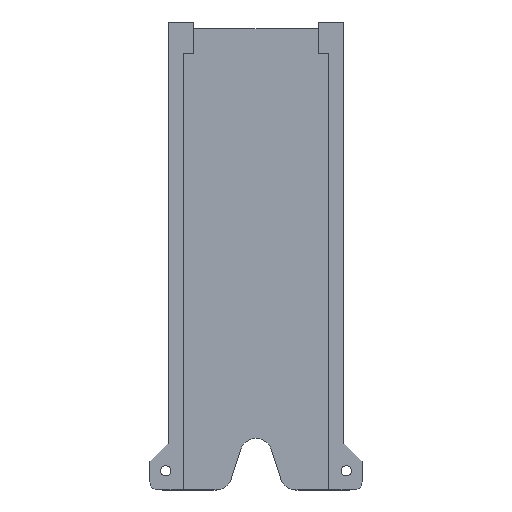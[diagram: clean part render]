
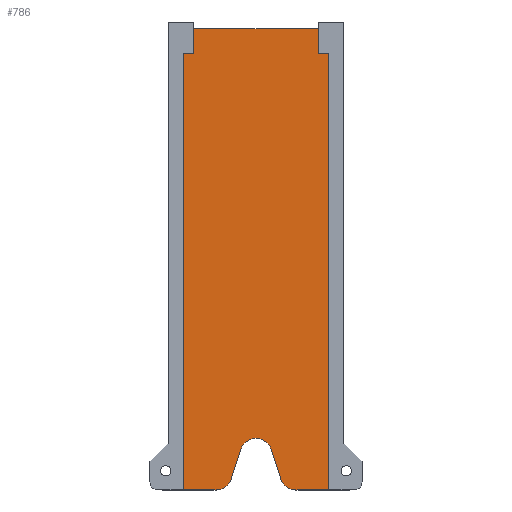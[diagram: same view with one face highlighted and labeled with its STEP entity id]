
A CAD part, top view. The second image highlights one B-rep face of the part: STEP entity #786.
In plain terms, the highlighted planar face has unit normal (0, 0, 1).
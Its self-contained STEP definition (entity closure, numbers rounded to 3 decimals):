
#38=PLANE('',#846);
#67=FACE_OUTER_BOUND('',#111,.T.);
#111=EDGE_LOOP('',(#550,#551,#552,#553,#554,#555,#556,#557,#558,#559,#560,
#561,#562,#563));
#165=LINE('',#1169,#247);
#170=LINE('',#1179,#252);
#171=LINE('',#1183,#253);
#172=LINE('',#1187,#254);
#173=LINE('',#1189,#255);
#174=LINE('',#1191,#256);
#175=LINE('',#1193,#257);
#176=LINE('',#1195,#258);
#177=LINE('',#1197,#259);
#178=LINE('',#1199,#260);
#179=LINE('',#1200,#261);
#247=VECTOR('',#931,10.);
#252=VECTOR('',#938,10.);
#253=VECTOR('',#941,10.);
#254=VECTOR('',#944,10.);
#255=VECTOR('',#945,10.);
#256=VECTOR('',#946,10.);
#257=VECTOR('',#947,10.);
#258=VECTOR('',#948,10.);
#259=VECTOR('',#949,10.);
#260=VECTOR('',#950,10.);
#261=VECTOR('',#951,10.);
#327=CIRCLE('',#843,5.);
#329=CIRCLE('',#847,5.);
#330=CIRCLE('',#848,5.);
#350=VERTEX_POINT('',#1159);
#351=VERTEX_POINT('',#1160);
#354=VERTEX_POINT('',#1168);
#358=VERTEX_POINT('',#1178);
#359=VERTEX_POINT('',#1180);
#360=VERTEX_POINT('',#1182);
#361=VERTEX_POINT('',#1184);
#362=VERTEX_POINT('',#1186);
#363=VERTEX_POINT('',#1188);
#364=VERTEX_POINT('',#1190);
#365=VERTEX_POINT('',#1192);
#366=VERTEX_POINT('',#1194);
#367=VERTEX_POINT('',#1196);
#368=VERTEX_POINT('',#1198);
#425=EDGE_CURVE('',#350,#351,#327,.T.);
#429=EDGE_CURVE('',#354,#351,#165,.T.);
#434=EDGE_CURVE('',#350,#358,#170,.T.);
#435=EDGE_CURVE('',#359,#358,#329,.T.);
#436=EDGE_CURVE('',#360,#359,#171,.F.);
#437=EDGE_CURVE('',#361,#360,#330,.T.);
#438=EDGE_CURVE('',#361,#362,#172,.T.);
#439=EDGE_CURVE('',#362,#363,#173,.F.);
#440=EDGE_CURVE('',#363,#364,#174,.T.);
#441=EDGE_CURVE('',#364,#365,#175,.F.);
#442=EDGE_CURVE('',#365,#366,#176,.F.);
#443=EDGE_CURVE('',#367,#366,#177,.F.);
#444=EDGE_CURVE('',#368,#367,#178,.T.);
#445=EDGE_CURVE('',#354,#368,#179,.F.);
#550=ORIENTED_EDGE('',*,*,#425,.F.);
#551=ORIENTED_EDGE('',*,*,#434,.T.);
#552=ORIENTED_EDGE('',*,*,#435,.F.);
#553=ORIENTED_EDGE('',*,*,#436,.F.);
#554=ORIENTED_EDGE('',*,*,#437,.F.);
#555=ORIENTED_EDGE('',*,*,#438,.T.);
#556=ORIENTED_EDGE('',*,*,#439,.T.);
#557=ORIENTED_EDGE('',*,*,#440,.T.);
#558=ORIENTED_EDGE('',*,*,#441,.T.);
#559=ORIENTED_EDGE('',*,*,#442,.T.);
#560=ORIENTED_EDGE('',*,*,#443,.F.);
#561=ORIENTED_EDGE('',*,*,#444,.F.);
#562=ORIENTED_EDGE('',*,*,#445,.F.);
#563=ORIENTED_EDGE('',*,*,#429,.T.);
#786=ADVANCED_FACE('',(#67),#38,.F.);
#843=AXIS2_PLACEMENT_3D('',#1161,#923,#924);
#846=AXIS2_PLACEMENT_3D('',#1177,#936,#937);
#847=AXIS2_PLACEMENT_3D('',#1181,#939,#940);
#848=AXIS2_PLACEMENT_3D('',#1185,#942,#943);
#923=DIRECTION('center_axis',(0.,0.,
-1.));
#924=DIRECTION('ref_axis',(0.587,-0.81,0.));
#931=DIRECTION('',(1.,0.,0.));
#936=DIRECTION('center_axis',(0.,0.,
-1.));
#937=DIRECTION('ref_axis',(1.,0.,0.));
#938=DIRECTION('',(0.311,0.95,0.));
#939=DIRECTION('center_axis',(0.,0.,
1.));
#940=DIRECTION('ref_axis',(0.,1.,0.));
#941=DIRECTION('',(0.311,-0.95,0.));
#942=DIRECTION('center_axis',(0.,0.,
-1.));
#943=DIRECTION('ref_axis',(-0.587,-0.81,0.));
#944=DIRECTION('',(1.,0.,0.));
#945=DIRECTION('',(0.,-1.,0.));
#946=DIRECTION('',(-1.,0.,0.));
#947=DIRECTION('',(0.,-1.,0.));
#948=DIRECTION('',(1.,0.,0.));
#949=DIRECTION('',(0.,-1.,0.));
#950=DIRECTION('',(1.,0.,0.));
#951=DIRECTION('',(0.,-1.,0.));
#1159=CARTESIAN_POINT('',(-8.075,-143.656,40.584));
#1160=CARTESIAN_POINT('',(-12.827,-147.1,40.584));
#1161=CARTESIAN_POINT('Origin',(-12.827,-142.1,40.584));
#1168=CARTESIAN_POINT('',(-23.174,-147.1,40.584));
#1169=CARTESIAN_POINT('',(11.176,-147.1,40.584));
#1177=CARTESIAN_POINT('Origin',(-0.274,-112.,40.584));
#1178=CARTESIAN_POINT('',(-5.026,-134.341,40.584));
#1179=CARTESIAN_POINT('',(-3.091,-128.431,40.584));
#1180=CARTESIAN_POINT('',(4.478,-134.341,40.584));
#1181=CARTESIAN_POINT('Origin',(-0.274,-135.897,40.584));
#1182=CARTESIAN_POINT('',(7.527,-143.656,40.584));
#1183=CARTESIAN_POINT('',(2.544,-128.431,40.584));
#1184=CARTESIAN_POINT('',(12.279,-147.1,40.584));
#1185=CARTESIAN_POINT('Origin',(12.279,-142.1,40.584));
#1186=CARTESIAN_POINT('',(22.626,-147.1,40.584));
#1187=CARTESIAN_POINT('',(11.176,-147.1,40.584));
#1188=CARTESIAN_POINT('',(22.626,-10.2,40.584));
#1189=CARTESIAN_POINT('',(22.626,-127.,40.584));
#1190=CARTESIAN_POINT('',(19.226,-10.2,40.584));
#1191=CARTESIAN_POINT('',(13.476,-10.2,40.584));
#1192=CARTESIAN_POINT('',(19.226,-2.231,40.584));
#1193=CARTESIAN_POINT('',(19.226,-61.1,40.584));
#1194=CARTESIAN_POINT('',(-19.774,-2.231,40.584));
#1195=CARTESIAN_POINT('',(27.226,-2.231,40.584));
#1196=CARTESIAN_POINT('',(-19.774,-10.2,40.584));
#1197=CARTESIAN_POINT('',(-19.774,-61.1,40.584));
#1198=CARTESIAN_POINT('',(-23.174,-10.2,40.584));
#1199=CARTESIAN_POINT('',(-14.024,-10.2,40.584));
#1200=CARTESIAN_POINT('',(-23.174,-127.,40.584));
